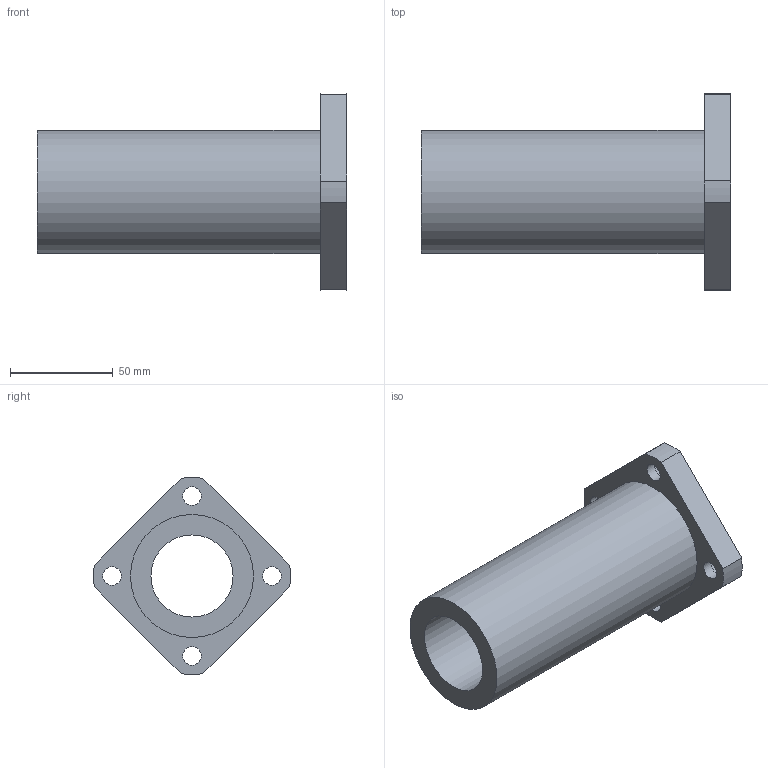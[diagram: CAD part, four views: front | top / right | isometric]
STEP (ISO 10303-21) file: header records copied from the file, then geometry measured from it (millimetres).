
FILE_DESCRIPTION(/* description */ ('Unknown'),/* implementation_level */ '2;1');
FILE_NAME(/* name */ 'LMK40LUU',/* time_stamp */ '2025-02-04T10:48:12+08:00',/* author */ ('Unknown'),/* organization */ ('Unknown'),/* preprocessor_version */ 'ST-DEVELOPER v18.102',/* originating_system */ 'Solid Edge',/* authorisation */ 'Unknown');
FILE_SCHEMA (('AUTOMOTIVE_DESIGN {1 0 10303 214 3 1 1}'));
Length unit declared in the file: millimetre
Products named in the file (1): LMK40LUU
Bounding box: 151 x 95.93 x 95.93 mm (x, y, z)
Volume: 265956.7 mm3; surface area: 58655.8 mm2
Topology: 1 solids, 1 shells, 25 faces, 54 edges, 36 vertices
Faces by surface type: cylinder 14, plane 11
Full cylindrical faces by diameter (mm): 9 x4, 14 x4, 40 x1, 60 x1
Entity records: 696 total; most frequent: DIRECTION 124, CARTESIAN_POINT 106, ORIENTED_EDGE 88, AXIS2_PLACEMENT_3D 54, EDGE_LOOP 50, FACE_BOUND 50, EDGE_CURVE 44, VERTEX_POINT 36
